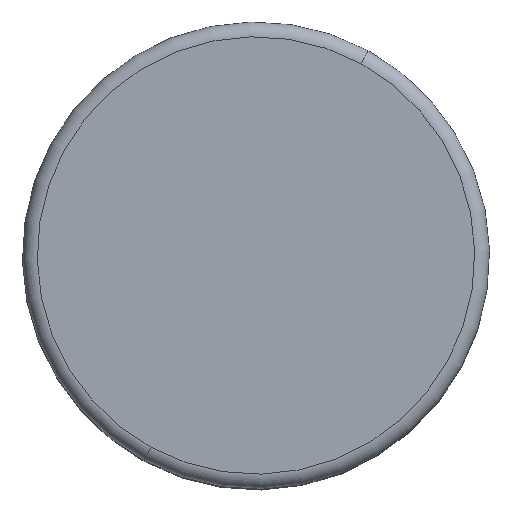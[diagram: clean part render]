
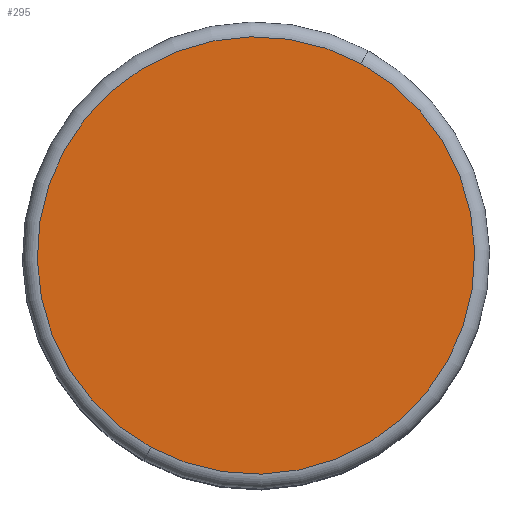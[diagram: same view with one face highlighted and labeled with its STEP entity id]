
A CAD part, top view. The second image highlights one B-rep face of the part: STEP entity #295.
In plain terms, the highlighted planar face has unit normal (0, 0, 1).
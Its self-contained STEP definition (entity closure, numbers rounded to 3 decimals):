
#242=CARTESIAN_POINT('Vertex',(14.143,25.889,80.)) ;
#245=CARTESIAN_POINT('Axis2P3D Location',(0.,0.,80.)) ;
#249=CARTESIAN_POINT('Vertex',(-14.143,-25.889,80.)) ;
#264=CARTESIAN_POINT('Axis2P3D Location',(0.,0.,80.)) ;
#286=CARTESIAN_POINT('Axis2P3D Location',(0.,29.5,80.)) ;
#246=DIRECTION('Axis2P3D Direction',(0.,0.,-1.)) ;
#265=DIRECTION('Axis2P3D Direction',(0.,0.,-1.)) ;
#287=DIRECTION('Axis2P3D Direction',(0.,0.,-1.)) ;
#288=DIRECTION('Axis2P3D XDirection',(1.,0.,0.)) ;
#247=AXIS2_PLACEMENT_3D('Circle Axis2P3D',#245,#246,$) ;
#266=AXIS2_PLACEMENT_3D('Circle Axis2P3D',#264,#265,$) ;
#289=AXIS2_PLACEMENT_3D('Plane Axis2P3D',#286,#287,#288) ;
#292=ORIENTED_EDGE('',*,*,#251,.F.) ;
#293=ORIENTED_EDGE('',*,*,#268,.F.) ;
#295=ADVANCED_FACE('A519-63',(#294),#290,.F.) ;
#248=CIRCLE('generated circle',#247,29.5) ;
#267=CIRCLE('generated circle',#266,29.5) ;
#251=EDGE_CURVE('',#243,#250,#248,.T.) ;
#268=EDGE_CURVE('',#250,#243,#267,.T.) ;
#291=EDGE_LOOP('',(#292,#293)) ;
#294=FACE_OUTER_BOUND('',#291,.T.) ;
#290=PLANE('Plane',#289) ;
#243=VERTEX_POINT('',#242) ;
#250=VERTEX_POINT('',#249) ;
